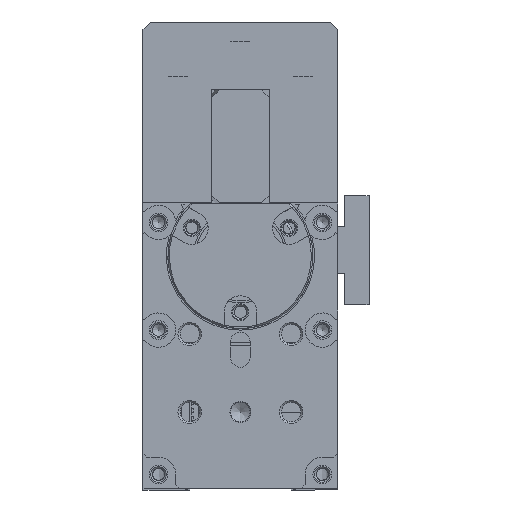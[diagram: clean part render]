
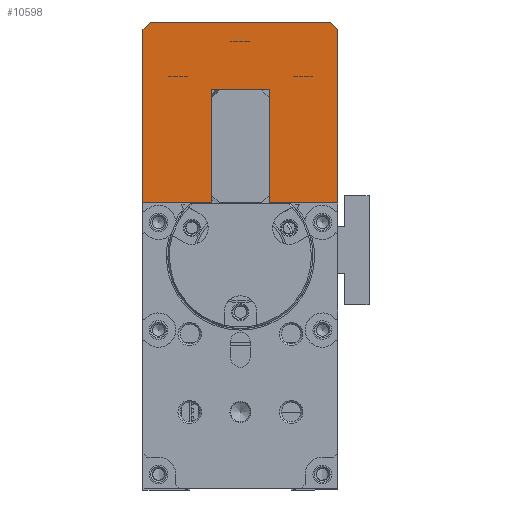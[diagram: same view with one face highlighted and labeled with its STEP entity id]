
A CAD part, front view. The second image highlights one B-rep face of the part: STEP entity #10598.
In plain terms, the highlighted planar face has unit normal (0, -1, 0) as drawn and (0, 0, 1) by its records, which use the part's own axes.
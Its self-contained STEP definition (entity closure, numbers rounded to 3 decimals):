
#9463=CARTESIAN_POINT('',(0.,8.8,227.5));
#9464=VERTEX_POINT('',#9463);
#9471=CARTESIAN_POINT('',(0.0,0.0,227.5));
#9472=VERTEX_POINT('',#9471);
#9473=CARTESIAN_POINT('',(0.,8.8,227.5));
#9474=DIRECTION('',(0.0,-1.0,0.0));
#9475=VECTOR('',#9474,8.8);
#9476=LINE('',#9473,#9475);
#9477=EDGE_CURVE('',#9464,#9472,#9476,.T.);
#9608=CARTESIAN_POINT('',(0.,25.,227.5));
#9609=VERTEX_POINT('',#9608);
#9616=CARTESIAN_POINT('',(0.,16.2,227.5));
#9617=VERTEX_POINT('',#9616);
#9618=CARTESIAN_POINT('',(0.,25.,227.5));
#9619=DIRECTION('',(0.0,-1.0,0.0));
#9620=VECTOR('',#9619,8.8);
#9621=LINE('',#9618,#9620);
#9622=EDGE_CURVE('',#9609,#9617,#9621,.T.);
#10332=CARTESIAN_POINT('',(-14.5,16.2,227.5));
#10333=VERTEX_POINT('',#10332);
#10340=CARTESIAN_POINT('',(-14.5,8.8,227.5));
#10341=VERTEX_POINT('',#10340);
#10342=CARTESIAN_POINT('',(-14.5,8.8,227.5));
#10343=DIRECTION('',(0.0,1.0,0.0));
#10344=VECTOR('',#10343,7.4);
#10345=LINE('',#10342,#10344);
#10346=EDGE_CURVE('',#10341,#10333,#10345,.T.);
#10372=CARTESIAN_POINT('',(-14.5,16.2,227.5));
#10373=DIRECTION('',(1.0,0.0,0.0));
#10374=VECTOR('',#10373,14.5);
#10375=LINE('',#10372,#10374);
#10376=EDGE_CURVE('',#10333,#9617,#10375,.T.);
#10425=CARTESIAN_POINT('',(0.,8.8,227.5));
#10426=DIRECTION('',(-1.0,0.0,0.0));
#10427=VECTOR('',#10426,14.5);
#10428=LINE('',#10425,#10427);
#10429=EDGE_CURVE('',#9464,#10341,#10428,.T.);
#10548=CARTESIAN_POINT('',(-11.6,12.5,227.5));
#10549=DIRECTION('',(0.0,0.0,1.0));
#10550=DIRECTION('',(1.0,0.0,0.0));
#10551=AXIS2_PLACEMENT_3D('',#10548,#10549,#10550);
#10552=PLANE('',#10551);
#10553=ORIENTED_EDGE('',*,*,#10429,.T.);
#10554=ORIENTED_EDGE('',*,*,#10346,.T.);
#10555=ORIENTED_EDGE('',*,*,#10376,.T.);
#10556=ORIENTED_EDGE('',*,*,#9622,.F.);
#10557=CARTESIAN_POINT('',(-22.2,25.,227.5));
#10558=VERTEX_POINT('',#10557);
#10559=CARTESIAN_POINT('',(-22.2,25.,227.5));
#10560=DIRECTION('',(1.0,0.0,0.0));
#10561=VECTOR('',#10560,22.2);
#10562=LINE('',#10559,#10561);
#10563=EDGE_CURVE('',#10558,#9609,#10562,.T.);
#10564=ORIENTED_EDGE('',*,*,#10563,.F.);
#10565=CARTESIAN_POINT('',(-23.2,24.,227.5));
#10566=VERTEX_POINT('',#10565);
#10567=CARTESIAN_POINT('',(-23.2,24.,227.5));
#10568=DIRECTION('',(0.707,0.707,0.0));
#10569=VECTOR('',#10568,1.414);
#10570=LINE('',#10567,#10569);
#10571=EDGE_CURVE('',#10566,#10558,#10570,.T.);
#10572=ORIENTED_EDGE('',*,*,#10571,.F.);
#10573=CARTESIAN_POINT('',(-23.2,1.,227.5));
#10574=VERTEX_POINT('',#10573);
#10575=CARTESIAN_POINT('',(-23.2,1.,227.5));
#10576=DIRECTION('',(0.0,1.0,0.0));
#10577=VECTOR('',#10576,23.);
#10578=LINE('',#10575,#10577);
#10579=EDGE_CURVE('',#10574,#10566,#10578,.T.);
#10580=ORIENTED_EDGE('',*,*,#10579,.F.);
#10581=CARTESIAN_POINT('',(-22.2,0.,227.5));
#10582=VERTEX_POINT('',#10581);
#10583=CARTESIAN_POINT('',(-22.2,0.,227.5));
#10584=DIRECTION('',(-0.707,0.707,0.0));
#10585=VECTOR('',#10584,1.414);
#10586=LINE('',#10583,#10585);
#10587=EDGE_CURVE('',#10582,#10574,#10586,.T.);
#10588=ORIENTED_EDGE('',*,*,#10587,.F.);
#10589=CARTESIAN_POINT('',(0.0,0.0,227.5));
#10590=DIRECTION('',(-1.0,0.0,0.0));
#10591=VECTOR('',#10590,22.2);
#10592=LINE('',#10589,#10591);
#10593=EDGE_CURVE('',#9472,#10582,#10592,.T.);
#10594=ORIENTED_EDGE('',*,*,#10593,.F.);
#10595=ORIENTED_EDGE('',*,*,#9477,.F.);
#10596=EDGE_LOOP('',(#10553,#10554,#10555,#10556,#10564,#10572,#10580,#10588,#10594,#10595));
#10597=FACE_OUTER_BOUND('',#10596,.T.);
#10598=ADVANCED_FACE('',(#10597),#10552,.T.);
